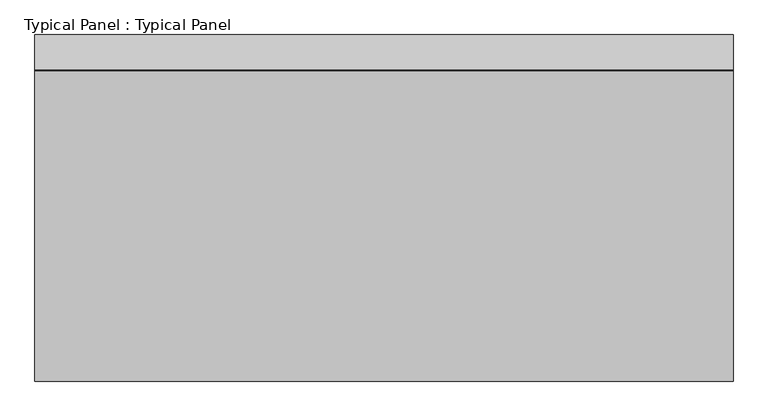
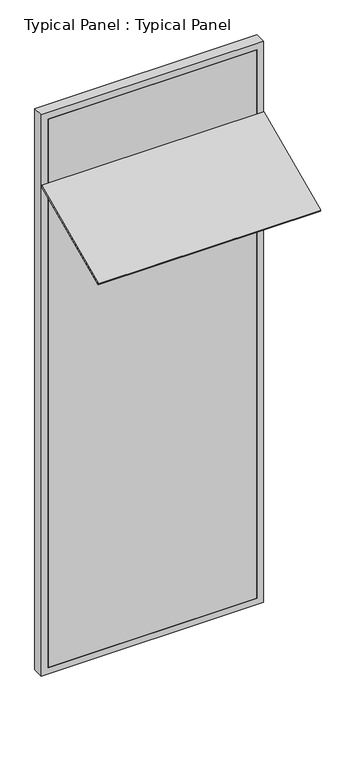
"""IFC4 building model written with IfcOpenShell, lengths in millimetres: plate geometry, Typical Panel : Typical Panel."""

from ifc_helpers import new_model, si_unit, frame, origin, place, context, project, spatial, polyline, outline, extrude, source, transform, mapped, element, save


def typical_panel_typical_panel_4a132dac(model_context):
    return source(origin(), model_context, "Body", "SweptSolid", [
        extrude(outline(polyline([(0.0, -729.9999999), (0.0, 0.0), (1500.0, 0.0), (1500.0, -729.9999999), (0.0, -729.9999999)])), frame((750.0, -667.8208176, 3193.946796), z_axis=(0.0, -0.40673664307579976, 0.9135454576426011), x_axis=(-1.0, 0.0, 0.0)), (0.0, 0.0, 1.0), 10.0),
        extrude(outline(polyline([(0.0, -750.0), (0.0, 750.0), (4000.0, 750.0), (4000.0, -750.0), (0.0, -750.0)]), holes=[polyline([(45.0, 705.0), (45.0, -705.0), (3955.0, -705.0), (3955.0, 705.0), (45.0, 705.0)])]), frame((0.0, -1.5797986, 0.0), z_axis=(0.0, 1.0, 0.0), x_axis=(0.0, 0.0, 1.0)), (0.0, 0.0, 1.0), 75.0),
        extrude(outline(polyline([(705.0, -1.5797986), (-705.0, -1.5797986), (-705.0, 13.4202014), (705.0, 13.4202014), (705.0, -1.5797986)])), frame((0.0, 0.0, 45.0), z_axis=(0.0, 0.0, 1.0), x_axis=(1.0, 0.0, 0.0)), (0.0, 0.0, 1.0), 3910.0),
    ])


if __name__ == "__main__":
    model = new_model("IFC4")
    model_context = context("Model", 3, world=origin())
    ifc_project = project(units=[si_unit("LENGTHUNIT", "METRE", prefix="MILLI")], contexts=[model_context])
    site = spatial("IfcSite", under=ifc_project)
    building = spatial("IfcBuilding", under=site)
    placement = place(None, origin())
    typical_panel_typical_panel_shape = typical_panel_typical_panel_4a132dac(model_context)
    element("IfcPlate", 1, ObjectType="Typical Panel : Typical Panel", at=placement, inside=building, context=model_context, shape_type="MappedRepresentation", body=[
        mapped(typical_panel_typical_panel_shape, transform((0.0, 0.0, 0.0), x_axis=(1.0, 0.0, 0.0), y_axis=(0.0, 1.0, 0.0), z_axis=(0.0, 0.0, 1.0))),
    ])
    save(model, "model.ifc")
